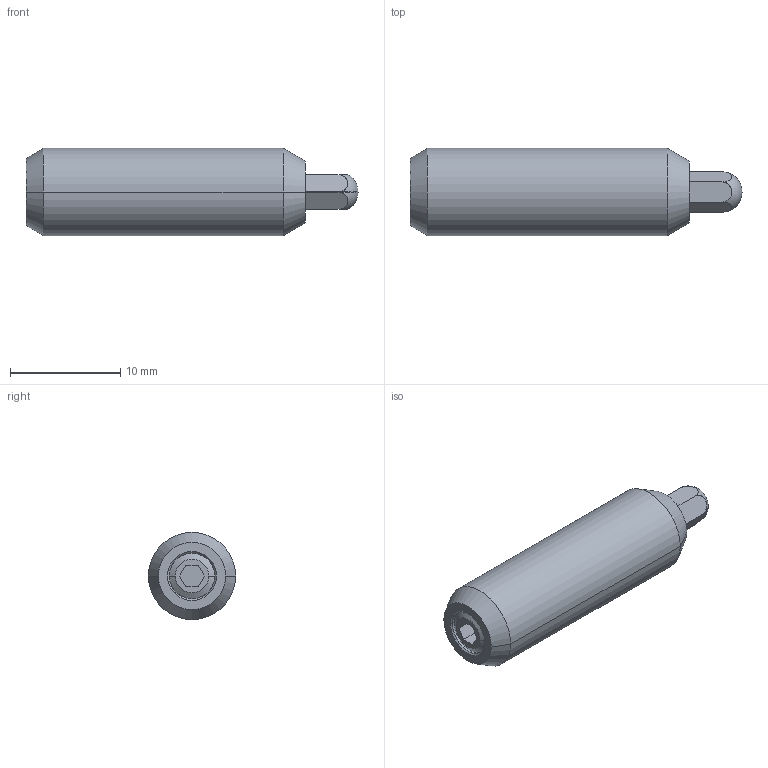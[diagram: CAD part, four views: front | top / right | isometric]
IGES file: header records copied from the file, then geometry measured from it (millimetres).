
Start section:  PTC IGES file: h56-3d.igs
Global section: file name: h56-3d.igs; native system: Pro/ENGINEER by Parametric Technology Corporation; preprocessor: 2002350; author: chant; organization: Unknown; date: 061107.091011; units: inch
Bounding box: 30.18 x 7.92 x 7.92 mm (x, y, z)
Surface area: 1179.8 mm2 (no closed solid volume)
Topology: 0 solids, 0 shells, 47 faces, 297 edges, 369 vertices
Faces by surface type: bspline 25, revolution 22
